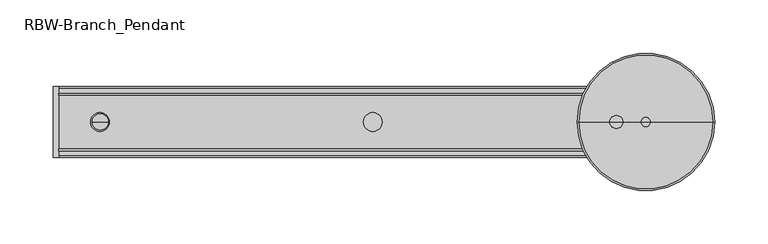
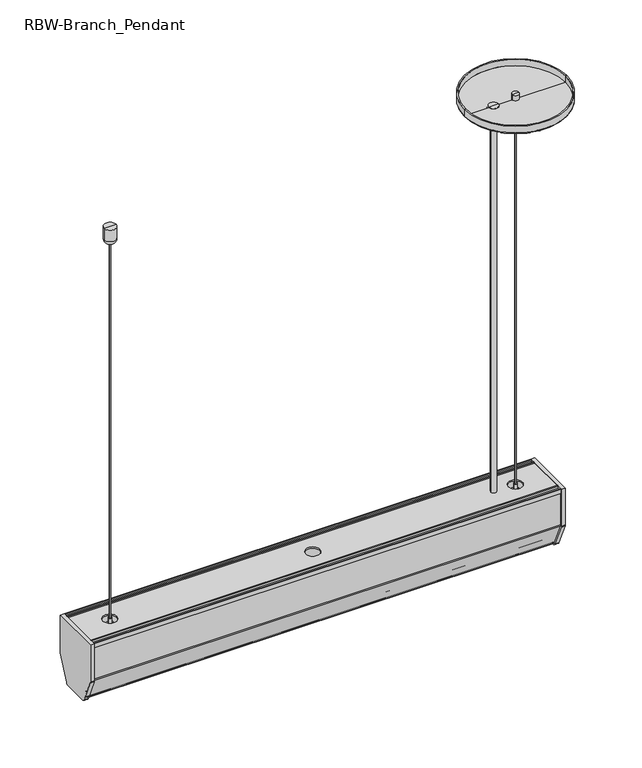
"""IFC4 building model written with IfcOpenShell, lengths in millimetres: light fixture geometry, RBW-Branch_Pendant : BREP-M."""

import ifcopenshell
import ifcopenshell.guid

model = None  # the IFC model being written
_history = None  # IfcOwnerHistory: only IFC2X3 demands one
_inside = {}  # id of a spatial element -> (the spatial element, [elements in it])
_under = {}  # id of a project, library or spatial element -> (it, [spatial elements below it])
_declared = {}  # id of a project -> (the project, [libraries it declares])
_typed = {}  # id of a type object -> (the type object, [elements of that type])
_made_of = {}  # id of a material, layer set ... -> (it, [elements and type objects made of it])


def new_model(schema):
    """Start an empty IFC model of exactly this schema.

    Asked for "IFC4X3", IfcOpenShell would pick the latest addendum, in which some entities
    have other attributes; the version numbers below select the first issue.
    IFC2X3 requires an IfcOwnerHistory on every rooted entity: one is made here for all.
    """
    global model, _history
    if schema == "IFC4X3":
        model = ifcopenshell.file(schema_version=(4, 3, 0, 0))
    else:
        model = ifcopenshell.file(schema=schema)
    _inside.clear()
    _under.clear()
    _declared.clear()
    _typed.clear()
    _made_of.clear()
    _history = None
    if model.schema == "IFC2X3":
        org = make("IfcOrganization", Name="unknown")
        user = make(
            "IfcPersonAndOrganization",
            ThePerson=make("IfcPerson", FamilyName="unknown"),
            TheOrganization=org,
        )
        app = make(
            "IfcApplication",
            ApplicationDeveloper=org,
            Version="unknown",
            ApplicationFullName="unknown",
            ApplicationIdentifier="unknown",
        )
        _history = make(
            "IfcOwnerHistory",
            OwningUser=user,
            OwningApplication=app,
            ChangeAction="ADDED",
            CreationDate=0,
        )
    return model


def make(cls, **values):
    """One entity of the class cls with the attributes given. An attribute that is None is left unset."""
    return model.create_entity(
        cls, **{name: value for name, value in values.items() if value is not None}
    )


def rooted(cls, **values):
    """An entity with a GlobalId (a new one), such as an element, a storey or a relation."""
    return make(cls, GlobalId=ifcopenshell.guid.new(), OwnerHistory=_history, **values)


def si_unit(unit_type, name, prefix=None):
    """IfcSIUnit, for example si_unit("LENGTHUNIT", "METRE", prefix="MILLI")."""
    return make("IfcSIUnit", UnitType=unit_type, Prefix=prefix, Name=name)


def assignment(units):
    """IfcUnitAssignment: the units of a project."""
    return None if units is None else make("IfcUnitAssignment", Units=units)


def point(xyz):
    """IfcCartesianPoint."""
    return None if xyz is None else make("IfcCartesianPoint", Coordinates=xyz)


def direction(xyz):
    """IfcDirection."""
    return None if xyz is None else make("IfcDirection", DirectionRatios=xyz)


def frame(location, z_axis=None, x_axis=None):
    """IfcAxis2Placement3D, a coordinate frame: its origin and axes. An axis left out is left unset."""
    return make(
        "IfcAxis2Placement3D",
        Location=point(location),
        Axis=direction(z_axis),
        RefDirection=direction(x_axis),
    )


def frame_2d(location, x_axis=None):
    """IfcAxis2Placement2D, a coordinate frame in the plane: its origin and x axis."""
    return make(
        "IfcAxis2Placement2D", Location=point(location), RefDirection=direction(x_axis)
    )


def origin():
    """The frame at (0, 0, 0) with its axes left unset."""
    return frame((0.0, 0.0, 0.0))


def place(relative_to, where):
    """IfcLocalPlacement: puts the frame where relative to a parent placement (None: the world)."""
    return make(
        "IfcLocalPlacement", PlacementRelTo=relative_to, RelativePlacement=where
    )


def context(
    kind, dimensions, precision=None, world=None, true_north=None, identifier=None
):
    """IfcGeometricRepresentationContext, for example the 3D "Model" context."""
    return make(
        "IfcGeometricRepresentationContext",
        ContextIdentifier=identifier,
        ContextType=kind,
        CoordinateSpaceDimension=dimensions,
        Precision=precision,
        WorldCoordinateSystem=world,
        TrueNorth=true_north,
    )


def project(units=None, contexts=None):
    """IfcProject with its units and contexts."""
    return rooted(
        "IfcProject",
        Name="project",
        RepresentationContexts=contexts,
        UnitsInContext=assignment(units),
    )


def spatial(cls, under=None, at=None, **own):
    """A site, building, storey or space (cls), placed at a placement, below another one or the project."""
    s = rooted(cls, ObjectPlacement=at, **own)
    if under is not None:
        _under.setdefault(under.id(), (under, []))[1].append(s)
    return s


def polyline(points):
    """IfcPolyline through the points."""
    return make("IfcPolyline", Points=[point(p) for p in points])


def circle_curve(where, radius):
    """IfcCircle in the frame where."""
    return make("IfcCircle", Position=where, Radius=radius)


def ellipse_curve(where, semi_axis1, semi_axis2):
    """IfcEllipse in the frame where."""
    return make(
        "IfcEllipse", Position=where, SemiAxis1=semi_axis1, SemiAxis2=semi_axis2
    )


def trimmed(basis, trim1, trim2, sense, master):
    """IfcTrimmedCurve: the piece of a basis curve between two trims."""
    return make(
        "IfcTrimmedCurve",
        BasisCurve=basis,
        Trim1=trim1,
        Trim2=trim2,
        SenseAgreement=sense,
        MasterRepresentation=master,
    )


def segment(curve, same_sense, transition):
    """IfcCompositeCurveSegment."""
    return make(
        "IfcCompositeCurveSegment",
        Transition=transition,
        SameSense=same_sense,
        ParentCurve=curve,
    )


def composite_curve(segments, self_intersect=None):
    """IfcCompositeCurve: segments joined end to end."""
    return make("IfcCompositeCurve", Segments=segments, SelfIntersect=self_intersect)


def outline(outer, holes=None, kind="AREA"):
    """IfcArbitraryClosedProfileDef: a profile drawn as a closed curve; with holes, ...WithVoids."""
    if holes is None:
        return make("IfcArbitraryClosedProfileDef", ProfileType=kind, OuterCurve=outer)
    return make(
        "IfcArbitraryProfileDefWithVoids",
        ProfileType=kind,
        OuterCurve=outer,
        InnerCurves=holes,
    )


def extrude(swept, where, along, depth):
    """IfcExtrudedAreaSolid: the profile swept, set in the frame where, extruded along a direction by depth."""
    return make(
        "IfcExtrudedAreaSolid",
        SweptArea=swept,
        Position=where,
        ExtrudedDirection=direction(along),
        Depth=depth,
    )


def shape(context_of_items, identifier, shape_type, items):
    """IfcShapeRepresentation: the items that make up one representation, for example the "Body"."""
    return make(
        "IfcShapeRepresentation",
        ContextOfItems=context_of_items,
        RepresentationIdentifier=identifier,
        RepresentationType=shape_type,
        Items=items,
    )


def source(mapping_origin, context_of_items, identifier, shape_type, items):
    """IfcRepresentationMap: a shape defined once, which mapped items show again and again."""
    return make(
        "IfcRepresentationMap",
        MappingOrigin=mapping_origin,
        MappedRepresentation=shape(context_of_items, identifier, shape_type, items),
    )


def transform(
    local_origin,
    x_axis=None,
    y_axis=None,
    z_axis=None,
    scale=None,
    scale2=None,
    scale3=None,
    uniform=True,
):
    """IfcCartesianTransformationOperator3D, or its non-uniform kind. x_axis, y_axis, z_axis: its Axis1, 2, 3."""
    if uniform:
        return make(
            "IfcCartesianTransformationOperator3D",
            Axis1=direction(x_axis),
            Axis2=direction(y_axis),
            LocalOrigin=point(local_origin),
            Scale=scale,
            Axis3=direction(z_axis),
        )
    return make(
        "IfcCartesianTransformationOperator3DnonUniform",
        Axis1=direction(x_axis),
        Axis2=direction(y_axis),
        LocalOrigin=point(local_origin),
        Scale=scale,
        Axis3=direction(z_axis),
        Scale2=scale2,
        Scale3=scale3,
    )


def mapped(mapping_source, mapping_target):
    """IfcMappedItem: shows the shape of a source again, moved by a transform."""
    return make(
        "IfcMappedItem", MappingSource=mapping_source, MappingTarget=mapping_target
    )


def made_of(thing, what):
    """Note that an element or type object is made of a material, layer set ...; save() writes the relation."""
    if what is not None:
        _made_of.setdefault(what.id(), (what, []))[1].append(thing)
    return thing


def element(
    cls,
    number,
    at=None,
    inside=None,
    cuts=None,
    type_object=None,
    material=None,
    context=None,
    identifier="Body",
    shape_type=None,
    held_by="IfcProductDefinitionShape",
    body=None,
    shapes=None,
    **own,
):
    """One element of the class cls, such as IfcWall. Its Tag is "e" and its number.

    at: its placement. inside: the storey or other place that contains it. cuts: it is an
    opening in that element (IfcRelVoidsElement). A single representation is given by context,
    identifier, shape_type and body (its items); several are given by shapes. held_by: the class
    of the entity that holds the representations. save() writes the other relations.
    """
    e = rooted(cls, Tag="e%d" % number, ObjectPlacement=at, **own)
    if body is not None:
        shapes = [shape(context, identifier, shape_type, body)]
    if shapes is not None:
        e.Representation = make(held_by, Representations=shapes)
    if inside is not None:
        _inside.setdefault(inside.id(), (inside, []))[1].append(e)
    if cuts is not None:
        rooted(
            "IfcRelVoidsElement", RelatingBuildingElement=cuts, RelatedOpeningElement=e
        )
    if type_object is not None:
        _typed.setdefault(type_object.id(), (type_object, []))[1].append(e)
    return made_of(e, material)


def aggregate(whole, parts):
    """IfcRelAggregates: a whole, such as a stair, and the parts it consists of."""
    return rooted("IfcRelAggregates", RelatingObject=whole, RelatedObjects=parts)


def save(model, path):
    """Write the relations noted so far, then the file.

    IfcRelAggregates (storeys below a building ...), IfcRelContainedInSpatialStructure (elements
    in a storey), IfcRelDefinesByType, IfcRelAssociatesMaterial and IfcRelDeclares: one each for
    every whole, place, type object, material and project.
    """
    for whole, parts in _under.values():
        aggregate(whole, parts)
    for where, things in _inside.values():
        rooted(
            "IfcRelContainedInSpatialStructure",
            RelatedElements=things,
            RelatingStructure=where,
        )
    for kind, things in _typed.values():
        rooted("IfcRelDefinesByType", RelatedObjects=things, RelatingType=kind)
    for what, things in _made_of.values():
        rooted("IfcRelAssociatesMaterial", RelatedObjects=things, RelatingMaterial=what)
    for by, libraries in _declared.values():
        rooted("IfcRelDeclares", RelatingContext=by, RelatedDefinitions=libraries)
    model.write(path)


def plane_surface(at):
    """IfcPlane: the flat surface through the origin of the frame at, square to its z axis."""
    return make("IfcPlane", Position=at)


def cylinder_surface(at, radius):
    """IfcCylindricalSurface: all points at the distance radius from the z axis of the frame at."""
    return make("IfcCylindricalSurface", Position=at, Radius=radius)


def revolved_surface(curve, axis_point, axis_direction):
    """IfcSurfaceOfRevolution: the curve turned about the line through axis_point along axis_direction."""
    return make(
        "IfcSurfaceOfRevolution",
        SweptCurve=make("IfcArbitraryOpenProfileDef", ProfileType="CURVE", Curve=curve),
        AxisPosition=make("IfcAxis1Placement", Location=point(axis_point), Axis=direction(axis_direction)),
    )


def advanced_brep(points, edges, surfaces, faces):
    """IfcAdvancedBrep: a solid bounded by faces that lie on surfaces and meet in shared edges.

    An edge is (start, end): straight between two places in points (the first is 0);
    or (start, end, curve); or (start, end, curve, False) where it runs against its curve.
    A face is (place in surfaces, loops), or (place, loops, False) where it looks against
    its surface's normal. A loop lists edges by number (the first is 1), with a minus sign
    where the edge is run from its end to its start. The first loop is the outer one.
    """
    corners = [point(p) for p in points]
    vertices = [make("IfcVertexPoint", VertexGeometry=c) for c in corners]
    made = []
    for start, end, *more in edges:
        made.append(
            make(
                "IfcEdgeCurve",
                EdgeStart=vertices[start],
                EdgeEnd=vertices[end],
                EdgeGeometry=more[0] if more else make("IfcPolyline", Points=[corners[start], corners[end]]),
                SameSense=more[1] if len(more) > 1 else True,
            )
        )
    hull = []
    for where, loops, *sense in faces:
        bounds = []
        for j, loop in enumerate(loops):
            ring = [make("IfcOrientedEdge", EdgeElement=made[abs(k) - 1], Orientation=k > 0) for k in loop]
            bounds.append(
                make(
                    "IfcFaceOuterBound" if j == 0 else "IfcFaceBound",
                    Bound=make("IfcEdgeLoop", EdgeList=ring),
                    Orientation=True,
                )
            )
        hull.append(make("IfcAdvancedFace", Bounds=bounds, FaceSurface=surfaces[where], SameSense=sense[0] if sense else True))
    return make("IfcAdvancedBrep", Outer=make("IfcClosedShell", CfsFaces=hull))


def rbw_branch_pendant_bb31d601(model_context):
    return source(origin(), model_context, "Body", "SolidModel", [
        extrude(outline(composite_curve([segment(trimmed(circle_curve(frame_2d((-30.5838757, 1866.7219812)), 2.5551868), [point((-32.9164788, 1865.6789365))], [point((-33.1390625, 1866.7219812))], False, "CARTESIAN"), True, "CONTINUOUS"), segment(polyline([(-33.1390625, 1866.7219812), (-33.1390625, 1916.0990082), (33.1390625, 1916.0990082), (33.1390625, 1866.722326)]), True, "CONTINUOUS"), segment(trimmed(circle_curve(frame_2d((30.6456452, 1866.722326)), 2.4934173), [point((33.1390625, 1866.722326))], [point((32.9299697, 1865.7228305))], False, "CARTESIAN"), True, "CONTINUOUS"), segment(polyline([(32.9299697, 1865.7228305), (19.2424644, 1834.8859562)]), True, "CONTINUOUS"), segment(trimmed(circle_curve(frame_2d((15.5991067, 1836.5309944)), 3.997525), [point((19.2424644, 1834.8859562))], [point((15.5991067, 1832.5334694))], False, "CARTESIAN"), True, "CONTINUOUS"), segment(polyline([(15.5991067, 1832.5334694), (-15.6176874, 1832.5334694)]), True, "CONTINUOUS"), segment(trimmed(circle_curve(frame_2d((-15.6176874, 1836.5022194)), 3.96875), [point((-15.6176874, 1832.5334694))], [point((-19.234817, 1834.8690172))], False, "CARTESIAN"), True, "CONTINUOUS"), segment(polyline([(-19.234817, 1834.8690172), (-32.9164788, 1865.6789365)]), True, "CONTINUOUS")], self_intersect=False)), frame((294.0949219, 0.0, 0.0), z_axis=(1.0, 0.0, 0.0), x_axis=(0.0, 1.0, 0.0)), (0.0, 0.0, 1.0), 5.0),
        extrude(outline(composite_curve([segment(trimmed(circle_curve(frame_2d((-30.5838757, 1866.7219812)), 2.5551868), [point((-32.9164788, 1865.6789365))], [point((-33.1390625, 1866.7219812))], False, "CARTESIAN"), True, "CONTINUOUS"), segment(polyline([(-33.1390625, 1866.7219812), (-33.1390625, 1916.0990082), (33.1390625, 1916.0990082), (33.1390625, 1866.722326)]), True, "CONTINUOUS"), segment(trimmed(circle_curve(frame_2d((30.6456452, 1866.722326)), 2.4934173), [point((33.1390625, 1866.722326))], [point((32.9299697, 1865.7228305))], False, "CARTESIAN"), True, "CONTINUOUS"), segment(polyline([(32.9299697, 1865.7228305), (19.2424644, 1834.8859562)]), True, "CONTINUOUS"), segment(trimmed(circle_curve(frame_2d((15.5991067, 1836.5309944)), 3.997525), [point((19.2424644, 1834.8859562))], [point((15.5991067, 1832.5334694))], False, "CARTESIAN"), True, "CONTINUOUS"), segment(polyline([(15.5991067, 1832.5334694), (-15.6176874, 1832.5334694)]), True, "CONTINUOUS"), segment(trimmed(circle_curve(frame_2d((-15.6176874, 1836.5022194)), 3.96875), [point((-15.6176874, 1832.5334694))], [point((-19.234817, 1834.8690172))], False, "CARTESIAN"), True, "CONTINUOUS"), segment(polyline([(-19.234817, 1834.8690172), (-32.9164788, 1865.6789365)]), True, "CONTINUOUS")], self_intersect=False)), frame((-299.0949219, 0.0, 0.0), z_axis=(1.0, 0.0, 0.0), x_axis=(0.0, 1.0, 0.0)), (0.0, 0.0, 1.0), 5.0),
        advanced_brep(
        [(255.6352427, 0.0, 2428.0587708), (192.6437722, 0.0, 2428.0587708), (318.6267131, 0.0, 2428.0587708), (318.5932185, 0.0, 2429.8682533), (192.6772669, 0.0, 2429.8682533), (255.6352427, 0.0, 2429.8682533), (318.5932185, 0.0, 2438.4), (192.6772669, 0.0, 2438.4), (320.0542757, 0.0, 2438.4), (191.2162096, 0.0, 2438.4), (320.0542757, 0.0, 2429.4863333), (191.2162096, 0.0, 2429.4863333)],
        [
            (0, 1),
            (1, 2, circle_curve(frame((255.6352427, 0.0, 2428.0587708), z_axis=(0.0, 0.0, -1.0), x_axis=(-1.0, 0.0, 0.0)), 62.9914705)),
            (2, 0),
            (2, 1, circle_curve(frame((255.6352427, 0.0, 2428.0587708), z_axis=(0.0, 0.0, -1.0), x_axis=(-1.0, 0.0, 0.0)), 62.9914705)),
            (3, 4, circle_curve(frame((255.6352427, 0.0, 2429.8682533), z_axis=(0.0, 0.0, 1.0), x_axis=(-1.0, 0.0, 0.0)), 62.9579758)),
            (4, 5),
            (5, 3),
            (4, 3, circle_curve(frame((255.6352427, 0.0, 2429.8682533), z_axis=(0.0, 0.0, 1.0), x_axis=(-1.0, 0.0, 0.0)), 62.9579758)),
            (6, 7, circle_curve(frame((255.6352427, 0.0, 2438.4), z_axis=(0.0, 0.0, 1.0), x_axis=(-1.0, 0.0, 0.0)), 62.9579758)),
            (7, 4),
            (3, 6),
            (7, 6, circle_curve(frame((255.6352427, 0.0, 2438.4), z_axis=(0.0, 0.0, 1.0), x_axis=(-1.0, 0.0, 0.0)), 62.9579758)),
            (8, 9, circle_curve(frame((255.6352427, 0.0, 2438.4), z_axis=(0.0, 0.0, 1.0), x_axis=(-1.0, 0.0, 0.0)), 64.4190331)),
            (9, 7),
            (6, 8),
            (9, 8, circle_curve(frame((255.6352427, 0.0, 2438.4), z_axis=(0.0, 0.0, 1.0), x_axis=(-1.0, 0.0, 0.0)), 64.4190331)),
            (10, 11, circle_curve(frame((255.6352427, 0.0, 2429.4863333), z_axis=(0.0, 0.0, 1.0), x_axis=(-1.0, 0.0, 0.0)), 64.4190331)),
            (11, 9),
            (8, 10),
            (11, 10, circle_curve(frame((255.6352427, 0.0, 2429.4863333), z_axis=(0.0, 0.0, 1.0), x_axis=(-1.0, 0.0, 0.0)), 64.4190331)),
            (1, 11, circle_curve(frame((192.6437722, 0.0, 2429.4863333), z_axis=(0.0, 1.0, 0.0), x_axis=(1.0, 0.0, 0.0)), 1.4275626)),
            (10, 2, circle_curve(frame((318.6267131, 0.0, 2429.4863333), z_axis=(0.0, 1.0, 0.0), x_axis=(-1.0, 0.0, 0.0)), 1.4275626)),
        ],
        [
            plane_surface(frame((255.6352427, 0.0, 2428.0587708), z_axis=(0.0, 0.0, -1.0), x_axis=(-1.0, 0.0, 0.0))),
            plane_surface(frame((255.6352427, 0.0, 2429.8682533), z_axis=(0.0, 0.0, 1.0), x_axis=(-1.0, 0.0, 0.0))),
            revolved_surface(polyline([(192.6772669, 0.0, 2429.8682533), (192.6772669, 0.0, 2438.4)]), (255.6352427, 0.0, 2417.1682533), (0.0, 0.0, -1.0)),
            plane_surface(frame((255.6352427, 0.0, 2438.4), z_axis=(0.0, 0.0, 1.0), x_axis=(-1.0, 0.0, 0.0))),
            cylinder_surface(frame((255.6352427, 0.0, 2417.1682533), z_axis=(0.0, 0.0, -1.0), x_axis=(-1.0, 0.0, 0.0)), 64.4190331),
            revolved_surface(trimmed(ellipse_curve(frame((192.6437722, 0.0, 2429.4863333), z_axis=(0.0, -1.0, 0.0), x_axis=(1.0, 0.0, 0.0)), 1.4275626, 1.4275626), [point((191.2162096, 0.0, 2429.4863333))], [point((192.6437722, 0.0, 2428.0587708))], True, "CARTESIAN"), (255.6352427, 0.0, 2417.1682533), (0.0, 0.0, -1.0)),
        ],
        [
            (0, [[1, 2, 3]]),
            (0, [[-3, 4, -1]]),
            (1, [[5, 6, 7]]),
            (1, [[8, -7, -6]]),
            (2, [[9, 10, -5, 11]]),
            (2, [[12, -11, -8, -10]]),
            (3, [[13, 14, -9, 15]]),
            (3, [[16, -15, -12, -14]]),
            (4, [[17, 18, -13, 19]]),
            (4, [[20, -19, -16, -18]]),
            (5, [[-2, 21, -17, 22]]),
            (5, [[-4, -22, -20, -21]]),
        ],
    ),
        advanced_brep(
        [(-8.750046, 0.0, 1914.5518643), (-8.750046, 0.0, 1916.0990082), (8.750046, 0.0, 1916.0990082), (8.750046, 0.0, 1914.5518643), (246.8231695, 0.0, 1914.5518643), (246.8231695, 0.0, 1916.0990082), (264.3232615, 0.0, 1916.0990082), (264.3232615, 0.0, 1914.5518643), (-294.0949219, -24.6399969, 1916.0990082), (-294.0949219, 24.6399969, 1916.0990082), (-294.0949219, 24.6399969, 1914.5518643), (-294.0949219, 17.2096773, 1914.5518643), (-294.0949219, 17.2096773, 1909.1660012), (-294.0949219, 15.6625425, 1909.1660012), (-294.0949219, 15.6625425, 1914.5518643), (-294.0949219, -15.6625425, 1914.5518643), (-294.0949219, -15.6625425, 1909.1660012), (-294.0949219, -17.2096773, 1909.1660012), (-294.0949219, -17.2096773, 1914.5518643), (-294.0949219, -24.6399969, 1914.5518643), (294.0949219, -24.6399969, 1916.0990082), (294.0949219, -24.6399969, 1914.5518643), (294.0949219, -17.2096773, 1914.5518643), (294.0949219, -17.2096773, 1909.1660012), (294.0949219, -15.6625425, 1909.1660012), (294.0949219, -15.6625425, 1914.5518643), (294.0949219, 15.6625425, 1914.5518643), (294.0949219, 15.6625425, 1909.1660012), (294.0949219, 17.2096773, 1909.1660012), (294.0949219, 17.2096773, 1914.5518643), (294.0949219, 24.6399969, 1914.5518643), (294.0949219, 24.6399969, 1916.0990082), (-246.8231695, 0.0, 1916.0990082), (-264.3232615, 0.0, 1916.0990082), (-264.3232615, 0.0, 1914.5518643), (-246.8231695, 0.0, 1914.5518643)],
        [
            (0, 1),
            (1, 2, circle_curve(frame((0.0, 0.0, 1916.0990082), z_axis=(0.0, 0.0, 1.0), x_axis=(1.0, 0.0, 0.0)), 8.750046)),
            (2, 3),
            (3, 0, circle_curve(frame((0.0, 0.0, 1914.5518643), z_axis=(0.0, 0.0, -1.0), x_axis=(1.0, 0.0, 0.0)), 8.750046)),
            (0, 3, circle_curve(frame((0.0, 0.0, 1914.5518643), z_axis=(0.0, 0.0, -1.0), x_axis=(1.0, 0.0, 0.0)), 8.750046)),
            (2, 1, circle_curve(frame((0.0, 0.0, 1916.0990082), z_axis=(0.0, 0.0, 1.0), x_axis=(1.0, 0.0, 0.0)), 8.750046)),
            (4, 5),
            (5, 6, circle_curve(frame((255.5732155, 0.0, 1916.0990082), z_axis=(0.0, 0.0, 1.0), x_axis=(1.0, 0.0, 0.0)), 8.750046)),
            (6, 7),
            (7, 4, circle_curve(frame((255.5732155, 0.0, 1914.5518643), z_axis=(0.0, 0.0, -1.0), x_axis=(1.0, 0.0, 0.0)), 8.750046)),
            (4, 7, circle_curve(frame((255.5732155, 0.0, 1914.5518643), z_axis=(0.0, 0.0, -1.0), x_axis=(1.0, 0.0, 0.0)), 8.750046)),
            (6, 5, circle_curve(frame((255.5732155, 0.0, 1916.0990082), z_axis=(0.0, 0.0, 1.0), x_axis=(1.0, 0.0, 0.0)), 8.750046)),
            (8, 9),
            (9, 10),
            (10, 11),
            (11, 12),
            (12, 13),
            (13, 14),
            (14, 15),
            (15, 16),
            (16, 17),
            (17, 18),
            (18, 19),
            (19, 8),
            (20, 21),
            (21, 22),
            (22, 23),
            (23, 24),
            (24, 25),
            (25, 26),
            (26, 27),
            (27, 28),
            (28, 29),
            (29, 30),
            (30, 31),
            (31, 20),
            (8, 20),
            (31, 9),
            (32, 33, circle_curve(frame((-255.5732155, 0.0, 1916.0990082), z_axis=(0.0, 0.0, -1.0), x_axis=(1.0, 0.0, 0.0)), 8.750046)),
            (33, 32, circle_curve(frame((-255.5732155, 0.0, 1916.0990082), z_axis=(0.0, 0.0, -1.0), x_axis=(1.0, 0.0, 0.0)), 8.750046)),
            (30, 10),
            (29, 11),
            (28, 12),
            (27, 13),
            (26, 14),
            (25, 15),
            (34, 35, circle_curve(frame((-255.5732155, 0.0, 1914.5518643), z_axis=(0.0, 0.0, 1.0), x_axis=(1.0, 0.0, 0.0)), 8.750046)),
            (35, 34, circle_curve(frame((-255.5732155, 0.0, 1914.5518643), z_axis=(0.0, 0.0, 1.0), x_axis=(1.0, 0.0, 0.0)), 8.750046)),
            (24, 16),
            (23, 17),
            (22, 18),
            (21, 19),
            (34, 33),
            (32, 35),
        ],
        [
            revolved_surface(polyline([(8.750046, 0.0, 1916.0990082), (8.750046, 0.0, 1914.5518643)]), (0.0, 0.0, 1905.0), (0.0, 0.0, 1.0)),
            revolved_surface(polyline([(264.3232615, 0.0, 1916.0990082), (264.3232615, 0.0, 1914.5518643)]), (255.5732155, 0.0, 10.0440765), (0.0, 0.0, 1.0)),
            plane_surface(frame((-294.0949219, 24.6399969, 1916.0990082), z_axis=(-1.0, 0.0, 0.0), x_axis=(0.0, 1.0, 0.0))),
            plane_surface(frame((294.0949219, 24.6399969, 1916.0990082), z_axis=(1.0, 0.0, 0.0), x_axis=(0.0, -1.0, 0.0))),
            plane_surface(frame((-294.0949219, -24.6399969, 1916.0990082), z_axis=(0.0, 0.0, 1.0), x_axis=(1.0, 0.0, 0.0))),
            plane_surface(frame((-294.0949219, 24.6399969, 1916.0990082), z_axis=(0.0, 1.0, 0.0), x_axis=(1.0, 0.0, 0.0))),
            plane_surface(frame((-294.0949219, 24.6399969, 1914.5518643), z_axis=(0.0, 0.0, -1.0), x_axis=(1.0, 0.0, 0.0))),
            plane_surface(frame((-294.0949219, 17.2096773, 1914.5518643), z_axis=(0.0, 1.0, 0.0), x_axis=(1.0, 0.0, 0.0))),
            plane_surface(frame((-294.0949219, 17.2096773, 1909.1660012), z_axis=(0.0, 0.0, -1.0), x_axis=(1.0, 0.0, 0.0))),
            plane_surface(frame((-294.0949219, 15.6625425, 1909.1660012), z_axis=(0.0, -1.0, 0.0), x_axis=(1.0, 0.0, 0.0))),
            plane_surface(frame((-294.0949219, 15.6625425, 1914.5518643), z_axis=(0.0, 0.0, -1.0), x_axis=(1.0, 0.0, 0.0))),
            plane_surface(frame((-294.0949219, -15.6625425, 1914.5518643), z_axis=(0.0, 1.0, 0.0), x_axis=(1.0, 0.0, 0.0))),
            plane_surface(frame((-294.0949219, -15.6625425, 1909.1660012), z_axis=(0.0, 0.0, -1.0), x_axis=(1.0, 0.0, 0.0))),
            plane_surface(frame((-294.0949219, -17.2096773, 1909.1660012), z_axis=(0.0, -1.0, 0.0), x_axis=(1.0, 0.0, 0.0))),
            plane_surface(frame((-294.0949219, -17.2096773, 1914.5518643), z_axis=(0.0, 0.0, -1.0), x_axis=(1.0, 0.0, 0.0))),
            plane_surface(frame((-294.0949219, -24.6399969, 1914.5518643), z_axis=(0.0, -1.0, 0.0), x_axis=(1.0, 0.0, 0.0))),
            revolved_surface(polyline([(-246.8231695, 0.0, 1916.0990082), (-246.8231695, 0.0, 1914.5518643)]), (-255.5732155, 0.0, 10.0440765), (0.0, 0.0, 1.0)),
        ],
        [
            (0, [[1, 2, 3, 4]]),
            (0, [[-1, 5, -3, 6]]),
            (1, [[7, 8, 9, 10]]),
            (1, [[-7, 11, -9, 12]]),
            (2, [[13, 14, 15, 16, 17, 18, 19, 20, 21, 22, 23, 24]]),
            (3, [[25, 26, 27, 28, 29, 30, 31, 32, 33, 34, 35, 36]]),
            (4, [[-13, 37, -36, 38], [-2, -6], [-8, -12], [39, 40]]),
            (5, [[-14, -38, -35, 41]]),
            (6, [[-15, -41, -34, 42]]),
            (7, [[-16, -42, -33, 43]]),
            (8, [[-17, -43, -32, 44]]),
            (9, [[-18, -44, -31, 45]]),
            (10, [[-19, -45, -30, 46], [-4, -5], [-10, -11], [47, 48]]),
            (11, [[-20, -46, -29, 49]]),
            (12, [[-21, -49, -28, 50]]),
            (13, [[-22, -50, -27, 51]]),
            (14, [[-23, -51, -26, 52]]),
            (15, [[-24, -52, -25, -37]]),
            (16, [[53, -39, 54, -47]]),
            (16, [[-53, -48, -54, -40]]),
        ],
    ),
        extrude(outline(polyline([(33.1390625, 1911.009784), (32.0194224, 1911.009784), (32.0194224, 1912.7402016), (30.0961595, 1912.7402016), (30.0961595, 1870.1990234), (-30.0961595, 1870.1990234), (-30.0961595, 1912.7402016), (-32.0194224, 1912.7402016), (-32.0194224, 1911.009784), (-33.1390625, 1911.009784), (-33.1390625, 1916.0990082), (-31.8158534, 1916.0990082), (-31.8158534, 1914.0633767), (-26.9301664, 1914.0633767), (-26.9301664, 1916.6079888), (-25.383027, 1916.6079888), (-25.383027, 1914.0633767), (-17.3478991, 1914.0633767), (-17.3478991, 1912.7402016), (-28.7725647, 1912.7402016), (-28.7725647, 1871.4997159), (28.7725647, 1871.4997159), (28.7725647, 1912.7402016), (17.3478991, 1912.7402016), (17.3478991, 1914.0633767), (25.383027, 1914.0633767), (25.383027, 1916.6079888), (26.9301664, 1916.6079888), (26.9301664, 1914.0633767), (31.8158534, 1914.0633767), (31.8158534, 1916.0990082), (33.1390625, 1916.0990082), (33.1390625, 1911.009784)])), frame((-294.0949219, 0.0, 0.0), z_axis=(1.0, 0.0, 0.0), x_axis=(0.0, 1.0, 0.0)), (0.0, 0.0, 1.0), 588.1898437),
        extrude(outline(composite_curve([segment(polyline([(31.110477, 1912.332959), (31.110477, 1868.093451)]), True, "CONTINUOUS"), segment(trimmed(circle_curve(frame_2d((27.5248794, 1868.093451)), 3.5855977), [point((31.110477, 1868.093451))], [point((30.7964256, 1866.6259715))], False, "CARTESIAN"), True, "CONTINUOUS"), segment(polyline([(30.7964256, 1866.6259715), (16.8462004, 1835.5258391)]), True, "CONTINUOUS"), segment(trimmed(circle_curve(frame_2d((15.0356307, 1836.3379853)), 1.984375), [point((16.8462004, 1835.5258391))], [point((15.0356307, 1834.3536103))], False, "CARTESIAN"), True, "CONTINUOUS"), segment(polyline([(15.0356307, 1834.3536103), (-15.0356307, 1834.3536103)]), True, "CONTINUOUS"), segment(trimmed(circle_curve(frame_2d((-15.0356307, 1836.3379853)), 1.984375), [point((-15.0356307, 1834.3536103))], [point((-16.8462004, 1835.5258391))], False, "CARTESIAN"), True, "CONTINUOUS"), segment(polyline([(-16.8462004, 1835.5258391), (-30.7964256, 1866.6259715)]), True, "CONTINUOUS"), segment(trimmed(circle_curve(frame_2d((-27.5248794, 1868.093451)), 3.5855977), [point((-30.7964256, 1866.6259715))], [point((-31.110477, 1868.093451))], False, "CARTESIAN"), True, "CONTINUOUS"), segment(polyline([(-31.110477, 1868.093451), (-31.110477, 1912.332959), (-30.316727, 1912.332959), (-30.316727, 1868.093451)]), True, "CONTINUOUS"), segment(trimmed(circle_curve(frame_2d((-27.5248794, 1868.093451)), 2.7918477), [point((-30.316727, 1868.093451))], [point((-30.0721977, 1866.95083))], True, "CARTESIAN"), True, "CONTINUOUS"), segment(polyline([(-30.0721977, 1866.95083), (-16.1219725, 1835.8506975)]), True, "CONTINUOUS"), segment(trimmed(circle_curve(frame_2d((-15.0356307, 1836.3379853)), 1.190625), [point((-16.1219725, 1835.8506975))], [point((-15.0356307, 1835.1473603))], True, "CARTESIAN"), True, "CONTINUOUS"), segment(polyline([(-15.0356307, 1835.1473603), (15.0356307, 1835.1473603)]), True, "CONTINUOUS"), segment(trimmed(circle_curve(frame_2d((15.0356307, 1836.3379853)), 1.190625), [point((15.0356307, 1835.1473603))], [point((16.1219725, 1835.8506975))], True, "CARTESIAN"), True, "CONTINUOUS"), segment(polyline([(16.1219725, 1835.8506975), (30.0721977, 1866.95083)]), True, "CONTINUOUS"), segment(trimmed(circle_curve(frame_2d((27.5248794, 1868.093451)), 2.7918477), [point((30.0721977, 1866.95083))], [point((30.316727, 1868.093451))], True, "CARTESIAN"), True, "CONTINUOUS"), segment(polyline([(30.316727, 1868.093451), (30.316727, 1912.332959), (31.110477, 1912.332959)]), True, "CONTINUOUS")], self_intersect=False)), frame((-294.0949219, 0.0, 0.0), z_axis=(1.0, 0.0, 0.0), x_axis=(0.0, 1.0, 0.0)), (0.0, 0.0, 1.0), 588.1898437),
        extrude(outline(composite_curve([segment(polyline([(27.2864128, 1870.1990234), (27.2864128, 1868.0564465), (14.9631189, 1840.7634391)]), True, "CONTINUOUS"), segment(trimmed(circle_curve(frame_2d((12.0694146, 1842.0699997)), 3.175), [point((14.9631189, 1840.7634391))], [point((12.0694146, 1838.8949997))], False, "CARTESIAN"), True, "CONTINUOUS"), segment(polyline([(12.0694146, 1838.8949997), (-12.0694146, 1838.8949997)]), True, "CONTINUOUS"), segment(trimmed(circle_curve(frame_2d((-12.0694146, 1842.0699997)), 3.175), [point((-12.0694146, 1838.8949997))], [point((-14.9631189, 1840.7634391))], False, "CARTESIAN"), True, "CONTINUOUS"), segment(polyline([(-14.9631189, 1840.7634391), (-27.2864128, 1868.0564465), (-27.2864128, 1870.1990234), (-25.6989128, 1870.1990234), (-25.6989128, 1868.398227), (-13.5162668, 1841.4167194)]), True, "CONTINUOUS"), segment(trimmed(circle_curve(frame_2d((-12.0694146, 1842.0699997)), 1.5875), [point((-13.5162668, 1841.4167194))], [point((-12.0694146, 1840.4824997))], True, "CARTESIAN"), True, "CONTINUOUS"), segment(polyline([(-12.0694146, 1840.4824997), (12.0694146, 1840.4824997)]), True, "CONTINUOUS"), segment(trimmed(circle_curve(frame_2d((12.0694146, 1842.0699997)), 1.5875), [point((12.0694146, 1840.4824997))], [point((13.5162668, 1841.4167194))], True, "CARTESIAN"), True, "CONTINUOUS"), segment(polyline([(13.5162668, 1841.4167194), (25.6989128, 1868.398227), (25.6989128, 1870.1990234), (27.2864128, 1870.1990234)]), True, "CONTINUOUS")], self_intersect=False)), frame((-294.0949219, 0.0, 0.0), z_axis=(1.0, 0.0, 0.0), x_axis=(0.0, 1.0, 0.0)), (0.0, 0.0, 1.0), 588.1898437),
        advanced_brep(
        [(-254.0555894, 0.0, 2416.9916823), (-256.5911694, 0.0, 2416.9916823), (-262.9411694, 0.0, 2423.3416823), (-247.7055894, 0.0, 2423.3416823), (-255.3233794, 0.0, 2416.9916823), (-247.7055894, 0.0, 2438.8476471), (-262.9411694, 0.0, 2438.8476471), (-255.3233794, 0.0, 2438.8476471)],
        [
            (0, 1, circle_curve(frame((-255.3233794, 0.0, 2416.9916823), z_axis=(0.0, 0.0, 1.0), x_axis=(-1.0, 0.0, 0.0)), 1.26779)),
            (1, 2, circle_curve(frame((-256.5911694, 0.0, 2423.3416823), z_axis=(0.0, 1.0, 0.0), x_axis=(1.0, 0.0, 0.0)), 6.35)),
            (2, 3, circle_curve(frame((-255.3233794, 0.0, 2423.3416823), z_axis=(0.0, 0.0, -1.0), x_axis=(-1.0, 0.0, 0.0)), 7.61779)),
            (3, 0, circle_curve(frame((-254.0555894, 0.0, 2423.3416823), z_axis=(0.0, 1.0, 0.0), x_axis=(-1.0, 0.0, 0.0)), 6.35)),
            (1, 0, circle_curve(frame((-255.3233794, 0.0, 2416.9916823), z_axis=(0.0, 0.0, 1.0), x_axis=(-1.0, 0.0, 0.0)), 1.26779)),
            (3, 2, circle_curve(frame((-255.3233794, 0.0, 2423.3416823), z_axis=(0.0, 0.0, -1.0), x_axis=(-1.0, 0.0, 0.0)), 7.61779)),
            (4, 1),
            (0, 4),
            (5, 6, circle_curve(frame((-255.3233794, 0.0, 2438.8476471), z_axis=(0.0, 0.0, 1.0), x_axis=(-1.0, 0.0, 0.0)), 7.61779)),
            (6, 7),
            (7, 5),
            (6, 5, circle_curve(frame((-255.3233794, 0.0, 2438.8476471), z_axis=(0.0, 0.0, 1.0), x_axis=(-1.0, 0.0, 0.0)), 7.61779)),
            (2, 6),
            (5, 3),
        ],
        [
            revolved_surface(trimmed(ellipse_curve(frame((-256.5911694, 0.0, 2423.3416823), z_axis=(0.0, -1.0, 0.0), x_axis=(1.0, 0.0, 0.0)), 6.35, 6.35), [point((-262.9411694, 0.0, 2423.3416823))], [point((-256.5911694, 0.0, 2416.9916823))], True, "CARTESIAN"), (-255.3233794, 0.0, 2406.9424819), (0.0, 0.0, -1.0)),
            plane_surface(frame((-255.3233794, 0.0, 2416.9916823), z_axis=(0.0, 0.0, -1.0), x_axis=(-1.0, 0.0, 0.0))),
            plane_surface(frame((-255.3233794, 0.0, 2438.8476471), z_axis=(0.0, 0.0, 1.0), x_axis=(-1.0, 0.0, 0.0))),
            cylinder_surface(frame((-255.3233794, 0.0, 2406.9424819), z_axis=(0.0, 0.0, -1.0), x_axis=(-1.0, 0.0, 0.0)), 7.61779),
        ],
        [
            (0, [[1, 2, 3, 4]]),
            (0, [[5, -4, 6, -2]]),
            (1, [[7, -1, 8]]),
            (1, [[-8, -5, -7]]),
            (2, [[9, 10, 11]]),
            (2, [[12, -11, -10]]),
            (3, [[-3, 13, -9, 14]]),
            (3, [[-6, -14, -12, -13]]),
        ],
    ),
        advanced_brep(
        [(-254.5426285, 0.0, 1917.6120145), (-256.1041303, 0.0, 1917.6120145), (-256.1041303, 0.0, 2430.5703703), (-254.5426285, 0.0, 2430.5703703), (-253.3281827, 0.0, 1917.6120145), (-257.3185761, 0.0, 1917.6120145), (-253.3281827, 0.0, 1909.855982), (-257.3185761, 0.0, 1909.855982), (-250.745171, 0.0, 1909.855982), (-259.9015878, 0.0, 1909.855982), (-250.745171, 0.0, 1875.2123701), (-259.9015878, 0.0, 1875.2123701), (-255.3233794, 0.0, 1875.2123701), (-255.3233794, 0.0, 2430.5703703)],
        [
            (0, 1, circle_curve(frame((-255.3233794, 0.0, 1917.6120145), z_axis=(0.0, 0.0, 1.0), x_axis=(-1.0, 0.0, 0.0)), 0.7807509)),
            (1, 2),
            (2, 3, circle_curve(frame((-255.3233794, 0.0, 2430.5703703), z_axis=(0.0, 0.0, -1.0), x_axis=(-1.0, 0.0, 0.0)), 0.7807509)),
            (3, 0),
            (1, 0, circle_curve(frame((-255.3233794, 0.0, 1917.6120145), z_axis=(0.0, 0.0, 1.0), x_axis=(-1.0, 0.0, 0.0)), 0.7807509)),
            (3, 2, circle_curve(frame((-255.3233794, 0.0, 2430.5703703), z_axis=(0.0, 0.0, -1.0), x_axis=(-1.0, 0.0, 0.0)), 0.7807509)),
            (4, 5, circle_curve(frame((-255.3233794, 0.0, 1917.6120145), z_axis=(0.0, 0.0, 1.0), x_axis=(-1.0, 0.0, 0.0)), 1.9951967)),
            (5, 1),
            (0, 4),
            (5, 4, circle_curve(frame((-255.3233794, 0.0, 1917.6120145), z_axis=(0.0, 0.0, 1.0), x_axis=(-1.0, 0.0, 0.0)), 1.9951967)),
            (6, 7, circle_curve(frame((-255.3233794, 0.0, 1909.855982), z_axis=(0.0, 0.0, 1.0), x_axis=(-1.0, 0.0, 0.0)), 1.9951967)),
            (7, 5),
            (4, 6),
            (7, 6, circle_curve(frame((-255.3233794, 0.0, 1909.855982), z_axis=(0.0, 0.0, 1.0), x_axis=(-1.0, 0.0, 0.0)), 1.9951967)),
            (8, 9, circle_curve(frame((-255.3233794, 0.0, 1909.855982), z_axis=(0.0, 0.0, 1.0), x_axis=(-1.0, 0.0, 0.0)), 4.5782084)),
            (9, 7),
            (6, 8),
            (9, 8, circle_curve(frame((-255.3233794, 0.0, 1909.855982), z_axis=(0.0, 0.0, 1.0), x_axis=(-1.0, 0.0, 0.0)), 4.5782084)),
            (10, 11, circle_curve(frame((-255.3233794, 0.0, 1875.2123701), z_axis=(0.0, 0.0, 1.0), x_axis=(-1.0, 0.0, 0.0)), 4.5782084)),
            (11, 9),
            (8, 10),
            (11, 10, circle_curve(frame((-255.3233794, 0.0, 1875.2123701), z_axis=(0.0, 0.0, 1.0), x_axis=(-1.0, 0.0, 0.0)), 4.5782084)),
            (12, 11),
            (10, 12),
            (2, 13),
            (13, 3),
        ],
        [
            cylinder_surface(frame((-255.3233794, 0.0, 1846.7951926), z_axis=(0.0, 0.0, -1.0), x_axis=(-1.0, 0.0, 0.0)), 0.7807509),
            plane_surface(frame((-255.3233794, 0.0, 1917.6120145), z_axis=(0.0, 0.0, 1.0), x_axis=(-1.0, 0.0, 0.0))),
            cylinder_surface(frame((-255.3233794, 0.0, 1846.7951926), z_axis=(0.0, 0.0, -1.0), x_axis=(-1.0, 0.0, 0.0)), 1.9951967),
            plane_surface(frame((-255.3233794, 0.0, 1909.855982), z_axis=(0.0, 0.0, 1.0), x_axis=(-1.0, 0.0, 0.0))),
            cylinder_surface(frame((-255.3233794, 0.0, 1846.7951926), z_axis=(0.0, 0.0, -1.0), x_axis=(-1.0, 0.0, 0.0)), 4.5782084),
            plane_surface(frame((-255.3233794, 0.0, 1875.2123701), z_axis=(0.0, 0.0, -1.0), x_axis=(-1.0, 0.0, 0.0))),
            plane_surface(frame((-255.3233794, 0.0, 2430.5703703), z_axis=(0.0, 0.0, 1.0), x_axis=(-1.0, 0.0, 0.0))),
        ],
        [
            (0, [[1, 2, 3, 4]]),
            (0, [[5, -4, 6, -2]]),
            (1, [[7, 8, -1, 9]]),
            (1, [[10, -9, -5, -8]]),
            (2, [[11, 12, -7, 13]]),
            (2, [[14, -13, -10, -12]]),
            (3, [[15, 16, -11, 17]]),
            (3, [[18, -17, -14, -16]]),
            (4, [[19, 20, -15, 21]]),
            (4, [[22, -21, -18, -20]]),
            (5, [[23, -19, 24]]),
            (5, [[-24, -22, -23]]),
            (6, [[-3, 25, 26]]),
            (6, [[-6, -26, -25]]),
        ],
    ),
        extrude(outline(composite_curve([segment(trimmed(circle_curve(frame_2d((27.6240981, 1868.093451)), 4.3793477), [point((32.0034458, 1868.093451))], [point((31.6198722, 1866.301113))], False, "CARTESIAN"), True, "CONTINUOUS"), segment(polyline([(31.6198722, 1866.301113), (17.669647, 1835.2009806)]), True, "CONTINUOUS"), segment(trimmed(circle_curve(frame_2d((15.1348494, 1836.3379853)), 2.778125), [point((17.669647, 1835.2009806))], [point((15.1348494, 1833.5598603))], False, "CARTESIAN"), True, "CONTINUOUS"), segment(polyline([(15.1348494, 1833.5598603), (-15.1348494, 1833.5598603)]), True, "CONTINUOUS"), segment(trimmed(circle_curve(frame_2d((-15.1348494, 1836.3379853)), 2.778125), [point((-15.1348494, 1833.5598603))], [point((-17.669647, 1835.2009806))], False, "CARTESIAN"), True, "CONTINUOUS"), segment(polyline([(-17.669647, 1835.2009806), (-31.6198722, 1866.301113)]), True, "CONTINUOUS"), segment(trimmed(circle_curve(frame_2d((-27.6240981, 1868.093451)), 4.3793477), [point((-31.6198722, 1866.301113))], [point((-32.0034458, 1868.093451))], False, "CARTESIAN"), True, "CONTINUOUS"), segment(polyline([(-32.0034458, 1868.093451), (-32.0034458, 1912.332959), (-31.2096958, 1912.332959), (-31.2096958, 1868.093451)]), True, "CONTINUOUS"), segment(trimmed(circle_curve(frame_2d((-27.6240981, 1868.093451)), 3.5855977), [point((-31.2096958, 1868.093451))], [point((-30.8956443, 1866.6259715))], True, "CARTESIAN"), True, "CONTINUOUS"), segment(polyline([(-30.8956443, 1866.6259715), (-16.9454191, 1835.5258391)]), True, "CONTINUOUS"), segment(trimmed(circle_curve(frame_2d((-15.1348494, 1836.3379853)), 1.984375), [point((-16.9454191, 1835.5258391))], [point((-15.1348494, 1834.3536103))], True, "CARTESIAN"), True, "CONTINUOUS"), segment(polyline([(-15.1348494, 1834.3536103), (15.1348494, 1834.3536103)]), True, "CONTINUOUS"), segment(trimmed(circle_curve(frame_2d((15.1348494, 1836.3379853)), 1.984375), [point((15.1348494, 1834.3536103))], [point((16.9454191, 1835.5258391))], True, "CARTESIAN"), True, "CONTINUOUS"), segment(polyline([(16.9454191, 1835.5258391), (30.8956443, 1866.6259715)]), True, "CONTINUOUS"), segment(trimmed(circle_curve(frame_2d((27.6240981, 1868.093451)), 3.5855977), [point((30.8956443, 1866.6259715))], [point((31.2096958, 1868.093451))], True, "CARTESIAN"), True, "CONTINUOUS"), segment(polyline([(31.2096958, 1868.093451), (31.2096958, 1912.332959), (32.0034458, 1912.332959), (32.0034458, 1868.093451)]), True, "CONTINUOUS")], self_intersect=False)), frame((-294.0949219, 0.0, 0.0), z_axis=(1.0, 0.0, 0.0), x_axis=(0.0, 1.0, 0.0)), (0.0, 0.0, 1.0), 588.1898437),
        advanced_brep(
        [(262.029283, 0.0, 2428.0587708), (249.1171479, 0.0, 2428.0587708), (251.2981059, 0.0, 2428.0587708), (259.848325, 0.0, 2428.0587708), (262.029283, 0.0, 2415.1316528), (249.1171479, 0.0, 2415.1316528), (259.9723825, 0.0, 2415.1316528), (251.1740484, 0.0, 2415.1316528), (259.9723825, 0.0, 2411.2536919), (251.1740484, 0.0, 2411.2536919), (256.4724362, 0.0, 2411.2536919), (254.6739947, 0.0, 2411.2536919), (256.4724362, 0.0, 1917.6120145), (254.6739947, 0.0, 1917.6120145), (257.6582016, 0.0, 1917.6120145), (253.4882294, 0.0, 1917.6120145), (257.6582016, 0.0, 1909.855982), (253.4882294, 0.0, 1909.855982), (260.0233972, 0.0, 1909.855982), (251.1230337, 0.0, 1909.855982), (260.0233972, 0.0, 1875.2123701), (251.1230337, 0.0, 1875.2123701), (255.5732155, 0.0, 1875.2123701), (259.848325, 0.0, 2437.1070557), (251.2981059, 0.0, 2437.1070557), (255.5732155, 0.0, 2437.1070557)],
        [
            (0, 1, circle_curve(frame((255.5732155, 0.0, 2428.0587708), z_axis=(0.0, 0.0, 1.0), x_axis=(-1.0, 0.0, 0.0)), 6.4560675)),
            (1, 2),
            (2, 3, circle_curve(frame((255.5732155, 0.0, 2428.0587708), z_axis=(0.0, 0.0, -1.0), x_axis=(-1.0, 0.0, 0.0)), 4.2751096)),
            (3, 0),
            (1, 0, circle_curve(frame((255.5732155, 0.0, 2428.0587708), z_axis=(0.0, 0.0, 1.0), x_axis=(-1.0, 0.0, 0.0)), 6.4560675)),
            (3, 2, circle_curve(frame((255.5732155, 0.0, 2428.0587708), z_axis=(0.0, 0.0, -1.0), x_axis=(-1.0, 0.0, 0.0)), 4.2751096)),
            (4, 5, circle_curve(frame((255.5732155, 0.0, 2415.1316528), z_axis=(0.0, 0.0, 1.0), x_axis=(-1.0, 0.0, 0.0)), 6.4560675)),
            (5, 1),
            (0, 4),
            (5, 4, circle_curve(frame((255.5732155, 0.0, 2415.1316528), z_axis=(0.0, 0.0, 1.0), x_axis=(-1.0, 0.0, 0.0)), 6.4560675)),
            (6, 7, circle_curve(frame((255.5732155, 0.0, 2415.1316528), z_axis=(0.0, 0.0, 1.0), x_axis=(-1.0, 0.0, 0.0)), 4.3991671)),
            (7, 5),
            (4, 6),
            (7, 6, circle_curve(frame((255.5732155, 0.0, 2415.1316528), z_axis=(0.0, 0.0, 1.0), x_axis=(-1.0, 0.0, 0.0)), 4.3991671)),
            (8, 9, circle_curve(frame((255.5732155, 0.0, 2411.2536919), z_axis=(0.0, 0.0, 1.0), x_axis=(-1.0, 0.0, 0.0)), 4.3991671)),
            (9, 7),
            (6, 8),
            (9, 8, circle_curve(frame((255.5732155, 0.0, 2411.2536919), z_axis=(0.0, 0.0, 1.0), x_axis=(-1.0, 0.0, 0.0)), 4.3991671)),
            (10, 11, circle_curve(frame((255.5732155, 0.0, 2411.2536919), z_axis=(0.0, 0.0, 1.0), x_axis=(-1.0, 0.0, 0.0)), 0.8992208)),
            (11, 9),
            (8, 10),
            (11, 10, circle_curve(frame((255.5732155, 0.0, 2411.2536919), z_axis=(0.0, 0.0, 1.0), x_axis=(-1.0, 0.0, 0.0)), 0.8992208)),
            (12, 13, circle_curve(frame((255.5732155, 0.0, 1917.6120145), z_axis=(0.0, 0.0, 1.0), x_axis=(-1.0, 0.0, 0.0)), 0.8992208)),
            (13, 11),
            (10, 12),
            (13, 12, circle_curve(frame((255.5732155, 0.0, 1917.6120145), z_axis=(0.0, 0.0, 1.0), x_axis=(-1.0, 0.0, 0.0)), 0.8992208)),
            (14, 15, circle_curve(frame((255.5732155, 0.0, 1917.6120145), z_axis=(0.0, 0.0, 1.0), x_axis=(-1.0, 0.0, 0.0)), 2.0849861)),
            (15, 13),
            (12, 14),
            (15, 14, circle_curve(frame((255.5732155, 0.0, 1917.6120145), z_axis=(0.0, 0.0, 1.0), x_axis=(-1.0, 0.0, 0.0)), 2.0849861)),
            (16, 17, circle_curve(frame((255.5732155, 0.0, 1909.855982), z_axis=(0.0, 0.0, 1.0), x_axis=(-1.0, 0.0, 0.0)), 2.0849861)),
            (17, 15),
            (14, 16),
            (17, 16, circle_curve(frame((255.5732155, 0.0, 1909.855982), z_axis=(0.0, 0.0, 1.0), x_axis=(-1.0, 0.0, 0.0)), 2.0849861)),
            (18, 19, circle_curve(frame((255.5732155, 0.0, 1909.855982), z_axis=(0.0, 0.0, 1.0), x_axis=(-1.0, 0.0, 0.0)), 4.4501817)),
            (19, 17),
            (16, 18),
            (19, 18, circle_curve(frame((255.5732155, 0.0, 1909.855982), z_axis=(0.0, 0.0, 1.0), x_axis=(-1.0, 0.0, 0.0)), 4.4501817)),
            (20, 21, circle_curve(frame((255.5732155, 0.0, 1875.2123701), z_axis=(0.0, 0.0, 1.0), x_axis=(-1.0, 0.0, 0.0)), 4.4501817)),
            (21, 19),
            (18, 20),
            (21, 20, circle_curve(frame((255.5732155, 0.0, 1875.2123701), z_axis=(0.0, 0.0, 1.0), x_axis=(-1.0, 0.0, 0.0)), 4.4501817)),
            (22, 21),
            (20, 22),
            (23, 24, circle_curve(frame((255.5732155, 0.0, 2437.1070557), z_axis=(0.0, 0.0, 1.0), x_axis=(-1.0, 0.0, 0.0)), 4.2751096)),
            (24, 25),
            (25, 23),
            (24, 23, circle_curve(frame((255.5732155, 0.0, 2437.1070557), z_axis=(0.0, 0.0, 1.0), x_axis=(-1.0, 0.0, 0.0)), 4.2751096)),
            (2, 24),
            (23, 3),
        ],
        [
            plane_surface(frame((255.5732155, 0.0, 2428.0587708), z_axis=(0.0, 0.0, 1.0), x_axis=(-1.0, 0.0, 0.0))),
            cylinder_surface(frame((255.5732155, 0.0, 1940.3531344), z_axis=(0.0, 0.0, -1.0), x_axis=(-1.0, 0.0, 0.0)), 6.4560675),
            plane_surface(frame((255.5732155, 0.0, 2415.1316528), z_axis=(0.0, 0.0, -1.0), x_axis=(-1.0, 0.0, 0.0))),
            cylinder_surface(frame((255.5732155, 0.0, 1940.3531344), z_axis=(0.0, 0.0, -1.0), x_axis=(-1.0, 0.0, 0.0)), 4.3991671),
            plane_surface(frame((255.5732155, 0.0, 2411.2536919), z_axis=(0.0, 0.0, -1.0), x_axis=(-1.0, 0.0, 0.0))),
            cylinder_surface(frame((255.5732155, 0.0, 1940.3531344), z_axis=(0.0, 0.0, -1.0), x_axis=(-1.0, 0.0, 0.0)), 0.8992208),
            plane_surface(frame((255.5732155, 0.0, 1917.6120145), z_axis=(0.0, 0.0, 1.0), x_axis=(-1.0, 0.0, 0.0))),
            cylinder_surface(frame((255.5732155, 0.0, 1940.3531344), z_axis=(0.0, 0.0, -1.0), x_axis=(-1.0, 0.0, 0.0)), 2.0849861),
            plane_surface(frame((255.5732155, 0.0, 1909.855982), z_axis=(0.0, 0.0, 1.0), x_axis=(-1.0, 0.0, 0.0))),
            cylinder_surface(frame((255.5732155, 0.0, 1940.3531344), z_axis=(0.0, 0.0, -1.0), x_axis=(-1.0, 0.0, 0.0)), 4.4501817),
            plane_surface(frame((255.5732155, 0.0, 1875.2123701), z_axis=(0.0, 0.0, -1.0), x_axis=(-1.0, 0.0, 0.0))),
            plane_surface(frame((255.5732155, 0.0, 2437.1070557), z_axis=(0.0, 0.0, 1.0), x_axis=(-1.0, 0.0, 0.0))),
            cylinder_surface(frame((255.5732155, 0.0, 1940.3531344), z_axis=(0.0, 0.0, -1.0), x_axis=(-1.0, 0.0, 0.0)), 4.2751096),
        ],
        [
            (0, [[1, 2, 3, 4]]),
            (0, [[5, -4, 6, -2]]),
            (1, [[7, 8, -1, 9]]),
            (1, [[10, -9, -5, -8]]),
            (2, [[11, 12, -7, 13]]),
            (2, [[14, -13, -10, -12]]),
            (3, [[15, 16, -11, 17]]),
            (3, [[18, -17, -14, -16]]),
            (4, [[19, 20, -15, 21]]),
            (4, [[22, -21, -18, -20]]),
            (5, [[23, 24, -19, 25]]),
            (5, [[26, -25, -22, -24]]),
            (6, [[27, 28, -23, 29]]),
            (6, [[30, -29, -26, -28]]),
            (7, [[31, 32, -27, 33]]),
            (7, [[34, -33, -30, -32]]),
            (8, [[35, 36, -31, 37]]),
            (8, [[38, -37, -34, -36]]),
            (9, [[39, 40, -35, 41]]),
            (9, [[42, -41, -38, -40]]),
            (10, [[43, -39, 44]]),
            (10, [[-44, -42, -43]]),
            (11, [[45, 46, 47]]),
            (11, [[48, -47, -46]]),
            (12, [[-3, 49, -45, 50]]),
            (12, [[-6, -50, -48, -49]]),
        ],
    ),
        advanced_brep(
        [(235.5582727, 0.0, 2428.0587708), (220.442721, 0.0, 2428.0587708), (221.9413713, 0.0, 2428.0587708), (234.0596224, 0.0, 2428.0587708), (231.3614359, 0.0, 1906.536195), (224.6395578, 0.0, 1906.536195), (224.6395578, 0.0, 2425.7315872), (231.3614359, 0.0, 2425.7315872), (228.0004969, 0.0, 1906.536195), (234.0596224, 0.0, 2430.6728554), (221.9413713, 0.0, 2430.6728554), (228.0004969, 0.0, 2430.6728554), (235.5582727, 0.0, 2425.7315872), (220.442721, 0.0, 2425.7315872)],
        [
            (0, 1, circle_curve(frame((228.0004969, 0.0, 2428.0587708), z_axis=(0.0, 0.0, 1.0), x_axis=(-1.0, 0.0, 0.0)), 7.5577759)),
            (1, 2),
            (2, 3, circle_curve(frame((228.0004969, 0.0, 2428.0587708), z_axis=(0.0, 0.0, -1.0), x_axis=(-1.0, 0.0, 0.0)), 6.0591255)),
            (3, 0),
            (1, 0, circle_curve(frame((228.0004969, 0.0, 2428.0587708), z_axis=(0.0, 0.0, 1.0), x_axis=(-1.0, 0.0, 0.0)), 7.5577759)),
            (3, 2, circle_curve(frame((228.0004969, 0.0, 2428.0587708), z_axis=(0.0, 0.0, -1.0), x_axis=(-1.0, 0.0, 0.0)), 6.0591255)),
            (4, 5, circle_curve(frame((228.0004969, 0.0, 1906.536195), z_axis=(0.0, 0.0, 1.0), x_axis=(-1.0, 0.0, 0.0)), 3.360939)),
            (5, 6),
            (6, 7, circle_curve(frame((228.0004969, 0.0, 2425.7315872), z_axis=(0.0, 0.0, -1.0), x_axis=(-1.0, 0.0, 0.0)), 3.360939)),
            (7, 4),
            (5, 4, circle_curve(frame((228.0004969, 0.0, 1906.536195), z_axis=(0.0, 0.0, 1.0), x_axis=(-1.0, 0.0, 0.0)), 3.360939)),
            (7, 6, circle_curve(frame((228.0004969, 0.0, 2425.7315872), z_axis=(0.0, 0.0, -1.0), x_axis=(-1.0, 0.0, 0.0)), 3.360939)),
            (8, 5),
            (4, 8),
            (9, 10, circle_curve(frame((228.0004969, 0.0, 2430.6728554), z_axis=(0.0, 0.0, 1.0), x_axis=(-1.0, 0.0, 0.0)), 6.0591255)),
            (10, 11),
            (11, 9),
            (10, 9, circle_curve(frame((228.0004969, 0.0, 2430.6728554), z_axis=(0.0, 0.0, 1.0), x_axis=(-1.0, 0.0, 0.0)), 6.0591255)),
            (2, 10),
            (9, 3),
            (12, 13, circle_curve(frame((228.0004969, 0.0, 2425.7315872), z_axis=(0.0, 0.0, 1.0), x_axis=(-1.0, 0.0, 0.0)), 7.5577759)),
            (13, 1),
            (0, 12),
            (13, 12, circle_curve(frame((228.0004969, 0.0, 2425.7315872), z_axis=(0.0, 0.0, 1.0), x_axis=(-1.0, 0.0, 0.0)), 7.5577759)),
            (6, 13),
            (12, 7),
        ],
        [
            plane_surface(frame((228.0004969, 0.0, 2428.0587708), z_axis=(0.0, 0.0, 1.0), x_axis=(-1.0, 0.0, 0.0))),
            cylinder_surface(frame((228.0004969, 0.0, 2421.5393198), z_axis=(0.0, 0.0, -1.0), x_axis=(-1.0, 0.0, 0.0)), 3.360939),
            plane_surface(frame((228.0004969, 0.0, 1906.536195), z_axis=(0.0, 0.0, -1.0), x_axis=(-1.0, 0.0, 0.0))),
            plane_surface(frame((228.0004969, 0.0, 2430.6728554), z_axis=(0.0, 0.0, 1.0), x_axis=(-1.0, 0.0, 0.0))),
            cylinder_surface(frame((228.0004969, 0.0, 2421.5393198), z_axis=(0.0, 0.0, -1.0), x_axis=(-1.0, 0.0, 0.0)), 6.0591255),
            cylinder_surface(frame((228.0004969, 0.0, 2421.5393198), z_axis=(0.0, 0.0, -1.0), x_axis=(-1.0, 0.0, 0.0)), 7.5577759),
            plane_surface(frame((228.0004969, 0.0, 2425.7315872), z_axis=(0.0, 0.0, -1.0), x_axis=(-1.0, 0.0, 0.0))),
        ],
        [
            (0, [[1, 2, 3, 4]]),
            (0, [[5, -4, 6, -2]]),
            (1, [[7, 8, 9, 10]]),
            (1, [[11, -10, 12, -8]]),
            (2, [[13, -7, 14]]),
            (2, [[-14, -11, -13]]),
            (3, [[15, 16, 17]]),
            (3, [[18, -17, -16]]),
            (4, [[-3, 19, -15, 20]]),
            (4, [[-6, -20, -18, -19]]),
            (5, [[21, 22, -1, 23]]),
            (5, [[24, -23, -5, -22]]),
            (6, [[-9, 25, -21, 26]]),
            (6, [[-12, -26, -24, -25]]),
        ],
    ),
    ])


if __name__ == "__main__":
    model = new_model("IFC4")
    model_context = context("Model", 3, world=origin())
    ifc_project = project(units=[si_unit("LENGTHUNIT", "METRE", prefix="MILLI")], contexts=[model_context])
    site = spatial("IfcSite", under=ifc_project)
    building = spatial("IfcBuilding", under=site)
    placement = place(None, origin())
    rbw_branch_pendant_shape = rbw_branch_pendant_bb31d601(model_context)
    element("IfcLightFixture", 1, ObjectType="RBW-Branch_Pendant : BREP-M", at=placement, inside=building, context=model_context, shape_type="MappedRepresentation", body=[
        mapped(rbw_branch_pendant_shape, transform((0.0, 0.0, 0.0), x_axis=(1.0, 0.0, 0.0), y_axis=(0.0, 1.0, 0.0), z_axis=(0.0, 0.0, 1.0))),
    ])
    save(model, "model.ifc")
